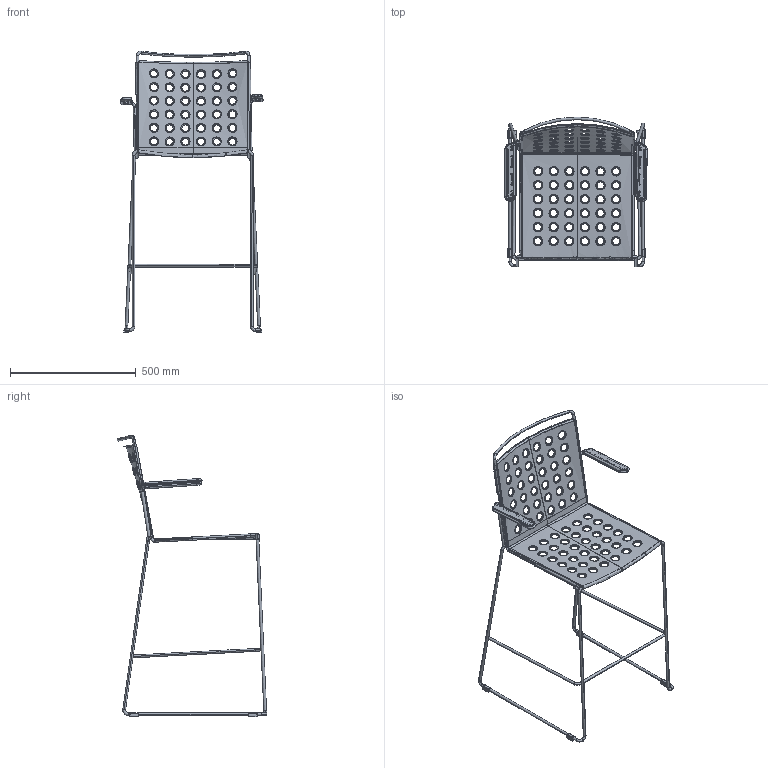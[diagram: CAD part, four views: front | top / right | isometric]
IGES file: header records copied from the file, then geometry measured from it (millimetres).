
Start section: 3D InterOp IGES (v. 2017 1.0.2), Spatial Corp. Copyright (c) 1999-2016.
Global section: file name: Sgabello Alto Busy con braccioli.igs; native system: Spatial Corp.; preprocessor: 3D InterOp GENERIC/IGES 3.0; author: Noname; organization: Noname; date: 20180716.084015; units: millimetre
Bounding box: 564.82 x 593.65 x 1118.5 mm (x, y, z)
Surface area: 1113397.8 mm2 (no closed solid volume)
Topology: 0 solids, 0 shells, 5170 faces, 31697 edges, 31531 vertices
Faces by surface type: extrusion 2778, revolution 2014, bspline 376, offset 2
